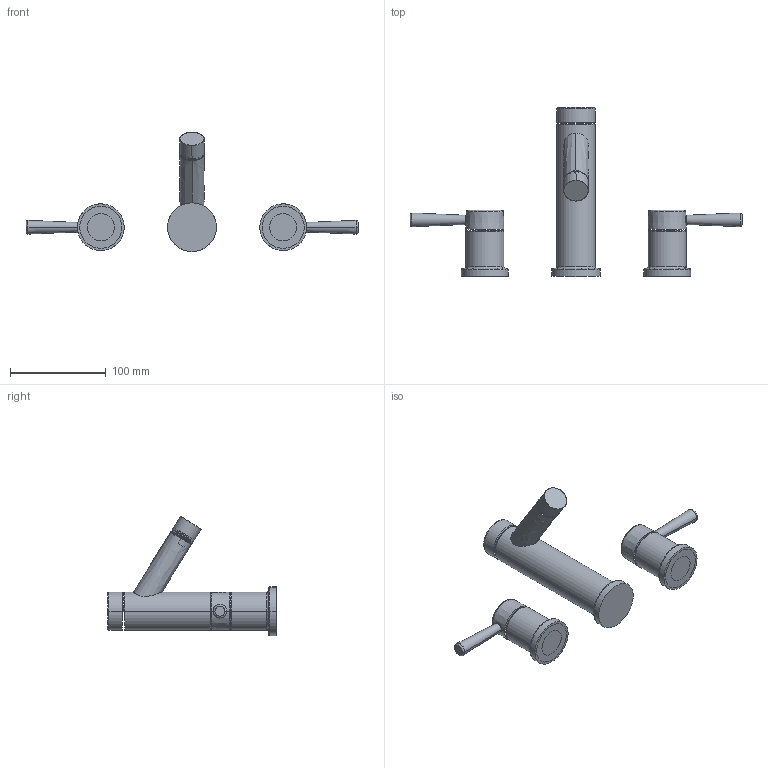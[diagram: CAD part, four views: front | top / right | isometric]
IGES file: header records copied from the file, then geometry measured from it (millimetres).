
Start section:  PTC IGES file: sku_t6110.igs
Global section: file name: sku_t6110.igs; native system: Pro/ENGINEER by Parametric Technology Corporation; preprocessor: 2006460; author: 9dutterb; organization: Unknown; date: 20071204.173748; units: inch
Bounding box: 347.26 x 176.7 x 124.73 mm (x, y, z)
Surface area: 73513.3 mm2 (no closed solid volume)
Topology: 0 solids, 0 shells, 95 faces, 372 edges, 368 vertices
Faces by surface type: revolution 79, bspline 16
